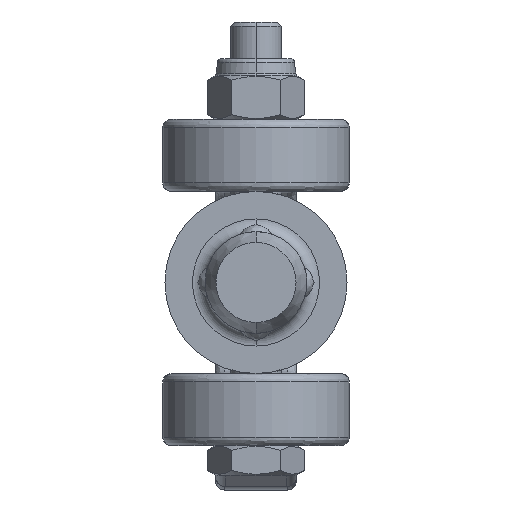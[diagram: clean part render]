
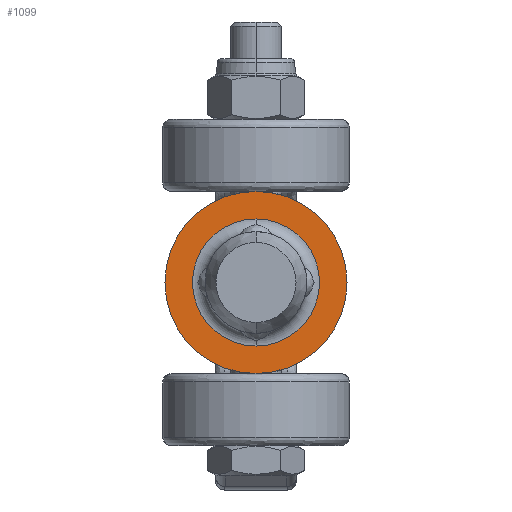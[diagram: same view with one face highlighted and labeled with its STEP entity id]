
A CAD part, front view. The second image highlights one B-rep face of the part: STEP entity #1099.
In plain terms, the highlighted planar face has unit normal (0, -1, 0) as drawn and (-1, 0, 0) by its records, which use the part's own axes.
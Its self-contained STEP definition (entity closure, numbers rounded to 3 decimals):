
#168 = DIRECTION ( 'NONE',  ( 1., 0., 0. ) ) ;
#201 = AXIS2_PLACEMENT_3D ( 'NONE', #5477, #168, #1646 ) ;
#250 = VERTEX_POINT ( 'NONE', #9632 ) ;
#642 = VERTEX_POINT ( 'NONE', #4908 ) ;
#664 = DIRECTION ( 'NONE',  ( 0., 0., 1. ) ) ;
#751 = EDGE_LOOP ( 'NONE', ( #2820, #3883 ) ) ;
#1099 = ADVANCED_FACE ( 'NONE', ( #5794, #8837 ), #3689, .F. ) ;
#1501 = CIRCLE ( 'NONE', #2765, 7.5 ) ;
#1555 = VERTEX_POINT ( 'NONE', #2278 ) ;
#1646 = DIRECTION ( 'NONE',  ( 0., 0., 1. ) ) ;
#1813 = AXIS2_PLACEMENT_3D ( 'NONE', #2829, #6677, #664 ) ;
#2278 = CARTESIAN_POINT ( 'NONE',  ( 0., 0., -7.5 ) ) ;
#2456 = EDGE_LOOP ( 'NONE', ( #5212, #8259 ) ) ;
#2765 = AXIS2_PLACEMENT_3D ( 'NONE', #6577, #5676, #7378 ) ;
#2820 = ORIENTED_EDGE ( 'NONE', *, *, #8533, .F. ) ;
#2825 = AXIS2_PLACEMENT_3D ( 'NONE', #3539, #2940, #4379 ) ;
#2829 = CARTESIAN_POINT ( 'NONE',  ( 0., 0., 0. ) ) ;
#2859 = CARTESIAN_POINT ( 'NONE',  ( 0., 0., 0. ) ) ;
#2940 = DIRECTION ( 'NONE',  ( 1., 0., 0. ) ) ;
#3325 = CIRCLE ( 'NONE', #8433, 10.75 ) ;
#3539 = CARTESIAN_POINT ( 'NONE',  ( 0., 6.5, 0. ) ) ;
#3689 = PLANE ( 'NONE',  #2825 ) ;
#3883 = ORIENTED_EDGE ( 'NONE', *, *, #9009, .F. ) ;
#4064 = EDGE_CURVE ( 'NONE', #1555, #250, #1501, .T. ) ;
#4141 = EDGE_CURVE ( 'NONE', #250, #1555, #9606, .T. ) ;
#4297 = DIRECTION ( 'NONE',  ( 0., 0., 1. ) ) ;
#4379 = DIRECTION ( 'NONE',  ( 0., 0., -1. ) ) ;
#4908 = CARTESIAN_POINT ( 'NONE',  ( 0., 0., 10.75 ) ) ;
#5212 = ORIENTED_EDGE ( 'NONE', *, *, #4141, .F. ) ;
#5477 = CARTESIAN_POINT ( 'NONE',  ( 0., 0., 0. ) ) ;
#5676 = DIRECTION ( 'NONE',  ( -1., 0., 0. ) ) ;
#5794 = FACE_OUTER_BOUND ( 'NONE', #751, .T. ) ;
#5836 = CARTESIAN_POINT ( 'NONE',  ( 0., 0., -10.75 ) ) ;
#6562 = DIRECTION ( 'NONE',  ( 1., 0., 0. ) ) ;
#6577 = CARTESIAN_POINT ( 'NONE',  ( 0., 0., 0. ) ) ;
#6677 = DIRECTION ( 'NONE',  ( -1., 0., 0. ) ) ;
#7378 = DIRECTION ( 'NONE',  ( 0., 0., 1. ) ) ;
#7497 = CIRCLE ( 'NONE', #201, 10.75 ) ;
#8259 = ORIENTED_EDGE ( 'NONE', *, *, #4064, .F. ) ;
#8433 = AXIS2_PLACEMENT_3D ( 'NONE', #2859, #6562, #4297 ) ;
#8533 = EDGE_CURVE ( 'NONE', #642, #9238, #7497, .T. ) ;
#8837 = FACE_BOUND ( 'NONE', #2456, .T. ) ;
#9009 = EDGE_CURVE ( 'NONE', #9238, #642, #3325, .T. ) ;
#9238 = VERTEX_POINT ( 'NONE', #5836 ) ;
#9606 = CIRCLE ( 'NONE', #1813, 7.5 ) ;
#9632 = CARTESIAN_POINT ( 'NONE',  ( 0., 0., 7.5 ) ) ;
